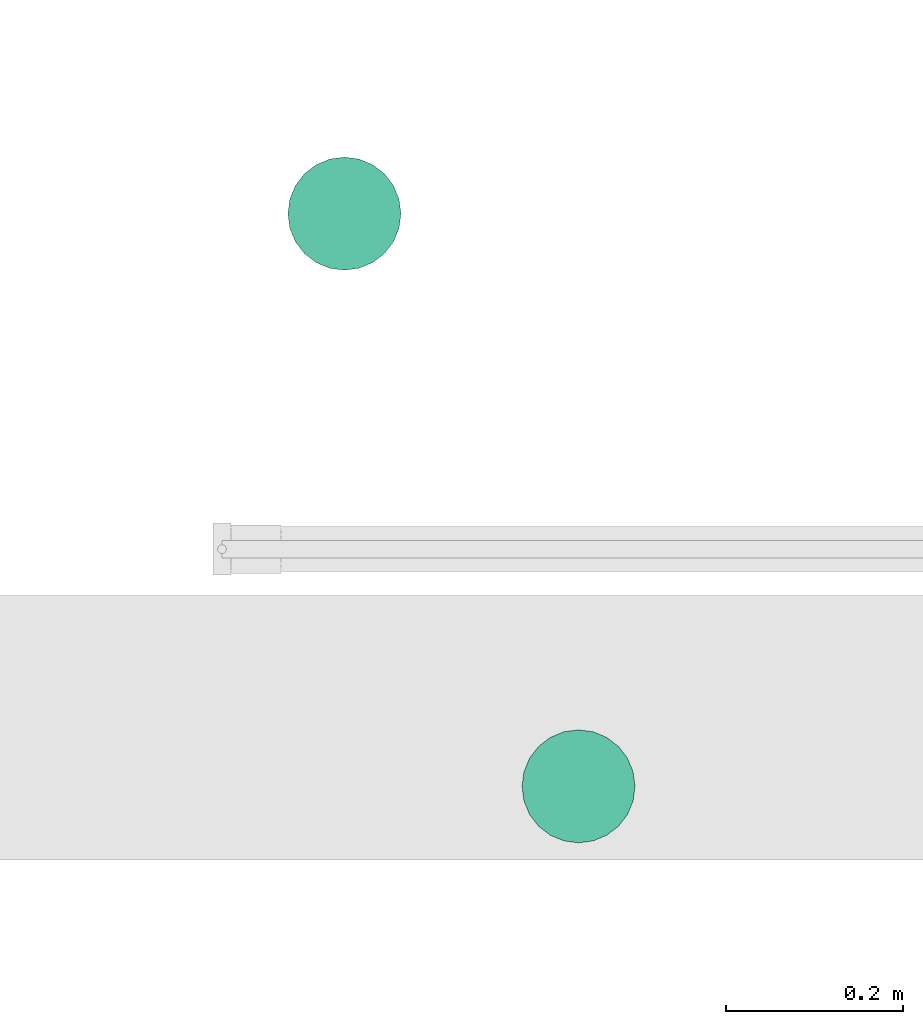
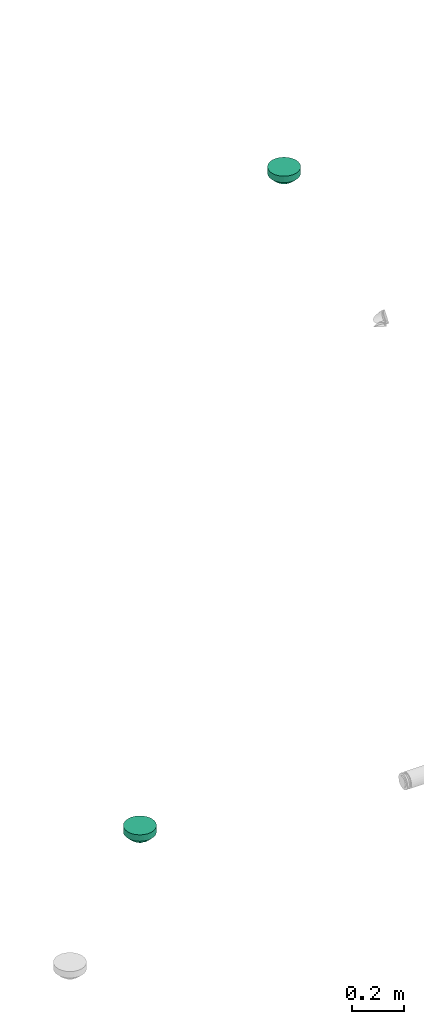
# One storey, part 47 of 153: 2 flow terminals.
"""IFC2X3 building model written with IfcOpenShell, lengths in metres."""

from ifc_helpers import new_model, entity, si_unit, converted_unit, derived_unit, direction, frame, origin, place, context, subcontext, project, spatial, faceted_brep, source, transform, mapped, type_object, type_shapes, element, save


model = new_model("IFC2X3")

# Units and contexts
model_context = context("Model", 3, precision=1e-05, world=origin(), true_north=direction((6.12303176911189e-17, 1.0)))
body_context = subcontext(model_context, "Body", "Model", "MODEL_VIEW")
ifc_project = project(units=[si_unit("LENGTHUNIT", "METRE"), si_unit("AREAUNIT", "SQUARE_METRE"), si_unit("VOLUMEUNIT", "CUBIC_METRE"), converted_unit("PLANEANGLEUNIT", "DEGREE", entity("IfcRatioMeasure", 0.0174532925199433), si_unit("PLANEANGLEUNIT", "RADIAN"), dimensions=[0, 0, 0, 0, 0, 0, 0]), si_unit("MASSUNIT", "GRAM", prefix="KILO"), derived_unit("MASSDENSITYUNIT", [(si_unit("MASSUNIT", "GRAM", prefix="KILO"), 1), (si_unit("LENGTHUNIT", "METRE"), -3)]), si_unit("TIMEUNIT", "SECOND"), si_unit("FREQUENCYUNIT", "HERTZ"), si_unit("THERMODYNAMICTEMPERATUREUNIT", "DEGREE_CELSIUS"), derived_unit("THERMALTRANSMITTANCEUNIT", [(si_unit("MASSUNIT", "GRAM", prefix="KILO"), 1), (si_unit("THERMODYNAMICTEMPERATUREUNIT", "KELVIN"), -1), (si_unit("TIMEUNIT", "SECOND"), -3)]), derived_unit("VOLUMETRICFLOWRATEUNIT", [(si_unit("LENGTHUNIT", "METRE"), 3), (si_unit("TIMEUNIT", "SECOND"), -1)]), si_unit("ELECTRICCURRENTUNIT", "AMPERE"), si_unit("ELECTRICVOLTAGEUNIT", "VOLT"), si_unit("POWERUNIT", "WATT"), si_unit("FORCEUNIT", "NEWTON"), si_unit("ILLUMINANCEUNIT", "LUX"), si_unit("LUMINOUSFLUXUNIT", "LUMEN"), si_unit("LUMINOUSINTENSITYUNIT", "CANDELA"), derived_unit("USERDEFINED", [(si_unit("MASSUNIT", "GRAM", prefix="KILO"), -1), (si_unit("LENGTHUNIT", "METRE"), -2), (si_unit("TIMEUNIT", "SECOND"), 3), (si_unit("LUMINOUSFLUXUNIT", "LUMEN"), 1)]), derived_unit("LINEARVELOCITYUNIT", [(si_unit("LENGTHUNIT", "METRE"), 1), (si_unit("TIMEUNIT", "SECOND"), -1)]), si_unit("PRESSUREUNIT", "PASCAL"), derived_unit("USERDEFINED", [(si_unit("LENGTHUNIT", "METRE"), -2), (si_unit("MASSUNIT", "GRAM", prefix="KILO"), 1), (si_unit("TIMEUNIT", "SECOND"), -2)])], contexts=[model_context])

# Site, building, storey
site_placement = place(None, origin())
site = spatial("IfcSite", under=ifc_project, at=site_placement, Name="Default", CompositionType="ELEMENT")
building_placement = place(site_placement, origin())
building = spatial("IfcBuilding", under=site, at=building_placement, CompositionType="ELEMENT")
storey_placement = place(building_placement, frame((0.0, 0.0, -4.62)))
storey = spatial("IfcBuildingStorey", under=building, at=storey_placement, Name="S02", CompositionType="ELEMENT", Elevation=-4.62)

# Flow terminals
light_fixture_type = type_object("IfcLightFixtureType", Name="Détecteur 360°", PredefinedType="NOTDEFINED")
shared_shape = source(origin(), body_context, "Body", "Brep", [
    faceted_brep([(0.0, -0.0397165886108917, 0.0531256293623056), (0.0, -0.034524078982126, 0.0563702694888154), (-0.0175153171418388, -0.0435914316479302, 0.0478512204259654), (-0.0194029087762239, -0.000878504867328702, 0.0644483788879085), (0.0, 0.0, 0.0669999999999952), (0.0, 0.00603476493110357, 0.0659648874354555), (-0.0174057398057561, -0.0159851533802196, 0.0630502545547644), (-0.0366619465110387, -0.0127227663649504, 0.0549213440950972), (-0.026998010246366, -0.0195753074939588, 0.0584711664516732), (-0.0202403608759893, -0.0335607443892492, 0.054639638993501), (-0.0359767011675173, -0.0348394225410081, 0.0444249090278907), (-0.0276843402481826, -0.0401006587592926, 0.0459804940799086), (-0.0133088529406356, -0.0517577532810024, 0.0400582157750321), (-0.0172617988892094, -0.0486391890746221, 0.042533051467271), (-0.0256912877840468, -0.0533485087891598, 0.0299999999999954), (-0.0462941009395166, -0.0369183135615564, 0.0299999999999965), (0.0, -0.0241390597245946, 0.0628595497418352), (-0.0186245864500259, -0.0267295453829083, 0.0589100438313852), (-0.0139070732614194, -0.0374370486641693, 0.0540817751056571), (0.0, 0.0449090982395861, 0.049880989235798), (-0.0172618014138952, 0.0486391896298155, 0.0425330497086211), (0.0, 0.0397165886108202, 0.0531256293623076), (-0.0186245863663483, 0.0267295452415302, 0.0589100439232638), (-0.0202403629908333, 0.0335607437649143, 0.054639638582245), (-0.0353547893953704, 0.0284533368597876, 0.0494330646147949), (0.0, 0.0120695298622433, 0.0649297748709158), (-0.0249385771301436, 0.0204731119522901, 0.0590841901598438), (-0.0191783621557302, 0.0150189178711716, 0.062775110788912), (-0.0465404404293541, -0.0196510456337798, 0.0438984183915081), (-0.052010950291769, -0.0250471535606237, 0.029999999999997), (-0.0453471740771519, -0.0286501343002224, 0.0397747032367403), (-0.0365036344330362, -0.0226255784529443, 0.0516441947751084), (-0.0175153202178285, 0.0435914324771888, 0.0478512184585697), (-0.0359926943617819, 0.0451334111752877, 0.0299999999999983), (-0.0276843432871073, 0.0401006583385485, 0.0459804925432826), (-0.00849704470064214, -0.0572729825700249, 0.0299999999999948), (0.0, -0.0592123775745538, 0.0299999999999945), (0.0, -0.0545512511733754, 0.0364787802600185), (0.0, -0.049890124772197, 0.0429575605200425), (-0.0169940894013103, -0.055333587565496, 0.0299999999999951), (-0.0359767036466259, 0.0348394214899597, 0.0444249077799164), (-0.025691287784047, 0.0533485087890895, 0.0299999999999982), (-0.0308419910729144, 0.0492409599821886, 0.0299999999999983), (-0.0130265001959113, 0.0514867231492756, 0.040526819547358), (-0.0169940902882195, 0.0553335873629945, 0.029999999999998), (0.0, 0.0498901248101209, 0.0429575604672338), (-0.0353547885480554, -0.0284533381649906, 0.0494330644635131), (0.0, 0.0181042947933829, 0.0638946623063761), (-0.0473669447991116, -0.00128092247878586, 0.0474310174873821), (-0.0485435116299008, -0.00908961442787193, 0.0452357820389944), (-0.0366597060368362, -0.0032867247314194, 0.0563153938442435), (-0.0226425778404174, -0.0107553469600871, 0.0624973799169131), (0.0, -0.00603476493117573, 0.0659648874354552), (0.0, 0.0293315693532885, 0.0596149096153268), (-0.0139070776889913, 0.0374370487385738, 0.0540817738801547), (-0.0449600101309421, 0.018422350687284, 0.0461366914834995), (-0.0453471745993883, 0.0286501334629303, 0.0397747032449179), (-0.0476906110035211, 0.00670602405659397, 0.0466053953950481), (-0.0577277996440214, 0.0131759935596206, 0.0299999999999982), (-0.0577277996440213, 0.00658799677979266, 0.029999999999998), (-0.0577277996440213, 0.0, 0.0299999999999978), (0.0, -0.0449090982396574, 0.0498809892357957), (-0.0308419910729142, -0.049240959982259, 0.0299999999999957), (-0.0359926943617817, -0.0451334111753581, 0.029999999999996), (0.0, 0.0345240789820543, 0.0563702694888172), (-0.0411433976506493, 0.0410258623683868, 0.0299999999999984), (-0.0462941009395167, 0.0369183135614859, 0.0299999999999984), (-0.0491525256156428, -0.03098273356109, 0.0299999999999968), (-0.0577277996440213, -0.0131759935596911, 0.0299999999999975), (0.0, -0.018104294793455, 0.0638946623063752), (-0.0377433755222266, 0.0044838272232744, 0.0554913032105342), (-0.0577277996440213, -0.00658799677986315, 0.0299999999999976), (-0.0385149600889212, 0.0124844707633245, 0.0536578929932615), (-0.0491525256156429, 0.0309827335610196, 0.0299999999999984), (-0.0548693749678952, 0.0191115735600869, 0.0299999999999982), (0.0, 0.0241390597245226, 0.0628595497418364), (-0.014625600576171, 0.0100436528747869, 0.0649170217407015), (-0.0271766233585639, 0.00920278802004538, 0.0609170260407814), (0.0, -0.0120695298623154, 0.0649297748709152), (-0.0520109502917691, 0.0250471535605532, 0.0299999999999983), (-0.0411433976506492, -0.0410258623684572, 0.0299999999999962), (-0.0548693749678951, -0.0191115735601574, 0.0299999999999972), (0.0, -0.0293315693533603, 0.0596149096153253), (0.0, 0.0545512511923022, 0.0364787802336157), (0.0, 0.0592123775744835, 0.0299999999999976), (-0.00849704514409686, 0.057272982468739, 0.0299999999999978), (-0.0127455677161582, 0.0563032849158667, 0.0299999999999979), (-0.0213426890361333, 0.054341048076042, 0.0299999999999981), (0.0175153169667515, 0.0435914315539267, 0.0478512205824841), (0.0194029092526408, 0.000878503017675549, 0.0644483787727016), (0.017405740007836, 0.0159851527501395, 0.0630502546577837), (0.0366619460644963, 0.012722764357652, 0.0549213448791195), (0.0269980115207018, 0.0195753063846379, 0.0584711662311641), (0.0202403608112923, 0.0335607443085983, 0.0546396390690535), (0.0359767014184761, 0.0348394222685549, 0.0444249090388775), (0.0276843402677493, 0.0401006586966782, 0.0459804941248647), (0.0133088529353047, 0.0517577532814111, 0.0400582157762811), (0.0172617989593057, 0.0486391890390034, 0.0425330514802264), (0.0256912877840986, 0.0533485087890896, 0.0299999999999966), (0.0462941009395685, 0.0369183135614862, 0.0299999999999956), (0.00849704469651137, 0.0572729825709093, 0.0299999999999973), (0.0169940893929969, 0.0553335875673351, 0.029999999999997), (0.0172617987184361, -0.0486391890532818, 0.0425330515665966), (0.025691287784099, -0.0533485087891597, 0.0299999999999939), (0.0308419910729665, -0.0492409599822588, 0.0299999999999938), (0.0175153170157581, -0.0435914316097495, 0.0478512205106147), (0.0186245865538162, -0.0267295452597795, 0.0589100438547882), (0.0202403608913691, -0.03356074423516, 0.0546396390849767), (0.0353547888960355, -0.0284533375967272, 0.0494330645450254), (0.0249385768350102, -0.0204731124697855, 0.0590841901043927), (0.0191783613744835, -0.0150189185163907, 0.062775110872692), (0.0465404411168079, 0.0196510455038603, 0.0438984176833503), (0.0577277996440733, 0.0131759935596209, 0.0299999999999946), (0.0548693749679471, 0.0191115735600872, 0.0299999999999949), (0.0520109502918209, 0.0250471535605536, 0.0299999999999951), (0.0365036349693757, 0.0226255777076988, 0.0516441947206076), (0.0186245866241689, 0.0267295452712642, 0.0589100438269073), (0.0359926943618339, -0.0451334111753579, 0.0299999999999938), (0.0276843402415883, -0.0401006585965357, 0.0459804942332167), (0.0139070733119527, 0.0374370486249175, 0.0540817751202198), (0.0359767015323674, -0.0348394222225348, 0.044424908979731), (0.0226425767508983, 0.0107553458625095, 0.0624973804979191), (0.0169940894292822, -0.0553335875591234, 0.0299999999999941), (0.0130264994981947, -0.0514867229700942, 0.0405268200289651), (0.0453471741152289, 0.0286501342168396, 0.039774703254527), (0.0353547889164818, 0.0284533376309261, 0.0494330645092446), (0.0473669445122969, 0.00128092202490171, 0.0474310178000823), (0.0485435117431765, 0.00908961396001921, 0.0452357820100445), (0.0366597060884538, 0.00328672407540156, 0.0563153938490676), (0.0139070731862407, -0.0374370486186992, 0.0540817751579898), (0.0449600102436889, -0.018422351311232, 0.0461366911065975), (0.0453471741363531, -0.0286501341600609, 0.039774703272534), (0.0476906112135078, -0.00670602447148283, 0.046605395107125), (0.0577277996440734, -0.0131759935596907, 0.0299999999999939), (0.0577277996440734, -0.00658799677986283, 0.0299999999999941), (0.0577277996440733, 0.0, 0.0299999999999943), (0.0308419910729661, 0.0492409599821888, 0.0299999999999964), (0.0359926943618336, 0.0451334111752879, 0.0299999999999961), (0.0411433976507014, -0.041025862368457, 0.0299999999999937), (0.0462941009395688, -0.0369183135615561, 0.0299999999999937), (0.0491525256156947, 0.0309827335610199, 0.0299999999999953), (0.037743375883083, -0.00448382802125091, 0.0554913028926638), (0.0577277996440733, 0.00658799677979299, 0.0299999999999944), (0.0385149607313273, -0.0124844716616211, 0.0536578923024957), (0.049152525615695, -0.0309827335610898, 0.0299999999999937), (0.0548693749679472, -0.0191115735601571, 0.0299999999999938), (0.0146256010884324, -0.0100436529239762, 0.0649170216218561), (0.0271766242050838, -0.00920278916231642, 0.0609170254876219), (0.0520109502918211, -0.0250471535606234, 0.0299999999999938), (0.041143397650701, 0.0410258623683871, 0.0299999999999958), (0.00849704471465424, -0.0572729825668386, 0.0299999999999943), (0.0127455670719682, -0.056303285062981, 0.0299999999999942), (0.0213426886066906, -0.0543410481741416, 0.029999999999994), (0.0, 0.0, 0.0299999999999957)], [[[0, 1, 2]], [[3, 4, 5]], [[6, 7, 8]], [[9, 10, 11]], [[12, 13, 14]], [[10, 15, 11]], [[9, 16, 17]], [[18, 9, 11]], [[19, 20, 21]], [[22, 23, 24]], [[25, 26, 27]], [[28, 29, 30]], [[8, 31, 17]], [[32, 33, 34]], [[35, 36, 37, 38, 39]], [[23, 40, 24]], [[20, 41, 42]], [[19, 43, 20]], [[44, 43, 45]], [[20, 32, 21]], [[30, 10, 46]], [[22, 26, 47]], [[48, 49, 50]], [[3, 51, 52]], [[53, 54, 23]], [[55, 24, 56]], [[57, 58, 59, 60]], [[13, 61, 0]], [[13, 0, 2]], [[2, 62, 13]], [[18, 2, 1]], [[2, 11, 63]], [[32, 64, 21]], [[32, 42, 33]], [[34, 33, 65, 66]], [[20, 42, 32]], [[54, 32, 34]], [[28, 30, 31]], [[10, 67, 15]], [[49, 68, 28]], [[8, 17, 69]], [[7, 6, 51]], [[28, 31, 7]], [[57, 48, 70]], [[58, 57, 55]], [[48, 71, 49]], [[70, 48, 50]], [[3, 50, 51]], [[55, 26, 24]], [[72, 57, 70]], [[26, 55, 72]], [[56, 40, 73]], [[56, 74, 55]], [[47, 75, 22]], [[52, 4, 3]], [[7, 50, 49]], [[5, 76, 3]], [[70, 3, 77]], [[51, 78, 52]], [[26, 25, 47]], [[76, 25, 27]], [[23, 22, 75]], [[26, 22, 24]], [[53, 64, 54]], [[23, 34, 40]], [[66, 40, 34]], [[40, 66, 73]], [[56, 73, 79, 74]], [[72, 27, 26]], [[40, 56, 24]], [[23, 75, 53]], [[69, 17, 16]], [[78, 6, 69]], [[46, 10, 9]], [[46, 9, 17]], [[50, 7, 51]], [[30, 29, 67]], [[80, 63, 11, 15]], [[28, 68, 81, 29]], [[10, 30, 67]], [[30, 46, 31]], [[82, 18, 1]], [[82, 16, 9]], [[28, 7, 49]], [[12, 39, 38]], [[61, 13, 12]], [[83, 84, 85, 86, 44, 45]], [[43, 41, 20]], [[44, 87, 41, 43]], [[32, 54, 64]], [[23, 54, 34]], [[9, 18, 82]], [[2, 18, 11]], [[39, 12, 14]], [[38, 61, 12]], [[62, 2, 63]], [[62, 14, 13]], [[17, 31, 46]], [[7, 31, 8]], [[48, 60, 71]], [[71, 68, 49]], [[60, 48, 57]], [[3, 70, 50]], [[72, 70, 77]], [[72, 77, 27]], [[55, 57, 72]], [[74, 58, 55]], [[76, 27, 77]], [[3, 76, 77]], [[25, 76, 5]], [[69, 6, 8]], [[78, 51, 6]], [[45, 43, 19]], [[21, 64, 88]], [[89, 4, 52]], [[90, 91, 92]], [[93, 94, 95]], [[96, 97, 98]], [[94, 99, 95]], [[100, 84, 83, 45, 101]], [[102, 103, 104]], [[102, 105, 0]], [[106, 107, 108]], [[78, 109, 110]], [[111, 112, 113, 114]], [[92, 115, 116]], [[105, 117, 118]], [[119, 93, 95]], [[107, 120, 108]], [[89, 121, 5]], [[122, 123, 38]], [[61, 123, 102]], [[93, 75, 116]], [[124, 94, 125]], [[106, 109, 69]], [[126, 127, 128]], [[61, 102, 0]], [[82, 129, 107]], [[130, 108, 131]], [[132, 133, 134, 135]], [[97, 19, 21]], [[97, 21, 88]], [[88, 136, 97]], [[119, 88, 64]], [[88, 95, 137]], [[105, 1, 0]], [[105, 104, 117]], [[118, 117, 138, 139]], [[102, 104, 105]], [[129, 105, 118]], [[111, 124, 115]], [[94, 140, 99]], [[127, 112, 111]], [[92, 116, 47]], [[91, 90, 121]], [[111, 115, 91]], [[132, 126, 141]], [[133, 132, 130]], [[126, 142, 127]], [[141, 126, 128]], [[89, 128, 121]], [[130, 109, 108]], [[143, 132, 141]], [[109, 130, 143]], [[131, 120, 144]], [[131, 145, 130]], [[69, 16, 106]], [[5, 4, 89]], [[91, 128, 127]], [[52, 146, 89]], [[141, 89, 147]], [[121, 25, 5]], [[109, 78, 69]], [[146, 78, 110]], [[107, 106, 16]], [[109, 106, 108]], [[82, 1, 129]], [[107, 118, 120]], [[139, 120, 118]], [[120, 139, 144]], [[131, 144, 148, 145]], [[143, 110, 109]], [[120, 131, 108]], [[107, 16, 82]], [[47, 116, 75]], [[25, 90, 47]], [[125, 94, 93]], [[125, 93, 116]], [[128, 91, 121]], [[124, 114, 140]], [[149, 137, 95, 99]], [[111, 114, 124]], [[94, 124, 140]], [[124, 125, 115]], [[53, 119, 64]], [[53, 75, 93]], [[111, 91, 127]], [[96, 101, 45]], [[19, 97, 96]], [[37, 36, 150, 151, 122, 38]], [[123, 103, 102]], [[122, 152, 103, 123]], [[105, 129, 1]], [[107, 129, 118]], [[93, 119, 53]], [[88, 119, 95]], [[101, 96, 98]], [[45, 19, 96]], [[136, 88, 137]], [[136, 98, 97]], [[116, 115, 125]], [[91, 115, 92]], [[126, 135, 142]], [[142, 112, 127]], [[135, 126, 132]], [[89, 141, 128]], [[143, 141, 147]], [[143, 147, 110]], [[130, 132, 143]], [[145, 133, 130]], [[146, 110, 147]], [[89, 146, 147]], [[78, 146, 52]], [[47, 90, 92]], [[25, 121, 90]], [[38, 123, 61]], [[153, 66, 65]], [[153, 65, 33]], [[153, 33, 42]], [[153, 42, 41]], [[153, 41, 87]], [[153, 73, 66]], [[153, 79, 73]], [[153, 74, 79]], [[153, 58, 74]], [[153, 87, 44]], [[153, 44, 86]], [[153, 86, 85]], [[153, 85, 84]], [[153, 84, 100]], [[153, 59, 58]], [[153, 60, 59]], [[153, 71, 60]], [[153, 68, 71]], [[153, 81, 68]], [[153, 29, 81]], [[153, 67, 29]], [[153, 15, 67]], [[153, 80, 15]], [[153, 63, 80]], [[153, 62, 63]], [[153, 14, 62]], [[153, 39, 14]], [[153, 35, 39]], [[153, 36, 35]], [[153, 100, 101]], [[153, 101, 98]], [[153, 98, 136]], [[153, 136, 137]], [[153, 137, 149]], [[153, 149, 99]], [[153, 99, 140]], [[153, 140, 114]], [[153, 114, 113]], [[153, 113, 112]], [[153, 112, 142]], [[153, 150, 36]], [[153, 151, 150]], [[153, 122, 151]], [[153, 152, 122]], [[153, 103, 152]], [[153, 104, 103]], [[153, 117, 104]], [[153, 138, 117]], [[153, 139, 138]], [[153, 144, 139]], [[153, 148, 144]], [[153, 145, 148]], [[153, 133, 145]], [[153, 142, 135]], [[153, 135, 134]], [[153, 134, 133]]]),
    faceted_brep([(0.0165644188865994, -0.0618192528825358, 0.029999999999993), (0.0320000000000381, -0.0554256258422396, 0.0299999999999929), (0.0452548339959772, -0.0452548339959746, 0.0299999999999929), (0.0554256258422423, -0.0320000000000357, 0.029999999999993), (0.0618192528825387, -0.016564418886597, 0.0299999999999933), (0.0640000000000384, 0.0, 0.0299999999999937), (0.0618192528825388, 0.016564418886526, 0.0299999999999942), (0.0554256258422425, 0.0319999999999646, 0.0299999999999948), (0.0452548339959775, 0.0452548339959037, 0.0299999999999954), (0.0320000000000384, 0.0554256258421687, 0.0299999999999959), (0.0165644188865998, 0.061819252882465, 0.0299999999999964), (0.0, 0.0639999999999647, 0.0299999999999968), (-0.0165644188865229, 0.061819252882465, 0.0299999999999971), (-0.0319999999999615, 0.0554256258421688, 0.0299999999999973), (-0.0452548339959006, 0.0452548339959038, 0.0299999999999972), (-0.0554256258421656, 0.0319999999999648, 0.0299999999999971), (-0.0618192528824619, 0.0165644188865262, 0.0299999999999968), (-0.0639999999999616, 0.0, 0.0299999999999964), (-0.061819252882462, -0.0165644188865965, 0.0299999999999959), (-0.0554256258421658, -0.0320000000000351, 0.0299999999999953), (-0.0452548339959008, -0.0452548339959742, 0.0299999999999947), (-0.0319999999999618, -0.0554256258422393, 0.0299999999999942), (-0.0165644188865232, -0.0618192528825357, 0.0299999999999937), (0.0, -0.0640000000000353, 0.0299999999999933), (0.0165644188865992, 0.0618192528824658, 0.0), (0.0320000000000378, 0.0554256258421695, 0.0), (0.0452548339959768, 0.0452548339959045, 0.0), (0.0554256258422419, 0.0319999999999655, 0.0), (0.0618192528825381, 0.0165644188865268, 0.0), (0.0640000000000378, 0.0, 0.0), (0.061819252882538, -0.0165644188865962, 0.0), (0.0554256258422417, -0.0320000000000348, 0.0), (0.0452548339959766, -0.0452548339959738, 0.0), (0.0320000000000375, -0.0554256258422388, 0.0), (0.0165644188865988, -0.061819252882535, 0.0), (0.0, -0.0640000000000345, 0.0), (-0.0165644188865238, -0.0618192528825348, 0.0), (-0.0319999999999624, -0.0554256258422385, 0.0), (-0.0452548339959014, -0.0452548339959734, 0.0), (-0.0554256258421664, -0.0320000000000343, 0.0), (-0.0618192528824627, -0.0165644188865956, 0.0), (-0.0639999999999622, 0.0, 0.0), (-0.0618192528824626, 0.016564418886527, 0.0), (-0.0554256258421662, 0.0319999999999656, 0.0), (-0.0452548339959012, 0.0452548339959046, 0.0), (-0.0319999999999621, 0.0554256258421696, 0.0), (-0.0165644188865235, 0.0618192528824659, 0.0), (0.0, 0.0639999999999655, 0.0)], [[[0, 1, 2, 3, 4, 5, 6, 7, 8, 9, 10, 11, 12, 13, 14, 15, 16, 17, 18, 19, 20, 21, 22, 23]], [[24, 25, 26, 27, 28, 29, 30, 31, 32, 33, 34, 35, 36, 37, 38, 39, 40, 41, 42, 43, 44, 45, 46, 47]], [[40, 18, 17, 41]], [[39, 19, 18, 40]], [[21, 20, 38, 37]], [[39, 38, 20, 19]], [[22, 21, 37, 36]], [[23, 22, 36, 35]], [[34, 0, 23, 35]], [[33, 1, 0, 34]], [[3, 2, 32, 31]], [[33, 32, 2, 1]], [[4, 3, 31, 30]], [[5, 4, 30, 29]], [[28, 6, 5, 29]], [[27, 7, 6, 28]], [[9, 8, 26, 25]], [[27, 26, 8, 7]], [[10, 9, 25, 24]], [[11, 10, 24, 47]], [[46, 12, 11, 47]], [[45, 13, 12, 46]], [[42, 41, 17, 16]], [[44, 14, 13, 45]], [[43, 15, 14, 44]], [[43, 42, 16, 15]]]),
])
type_shapes(light_fixture_type, [shared_shape])
for number, where, z_axis, x_axis in (
    (1, (39.1884346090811, -188.828177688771, 3.37), (0.0, 0.0, -1.0), (-1.0, 0.0, 0.0)),
    (2, (39.4535521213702, -189.476781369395, 6.76), (0.0, 0.0, -1.0), (-1.0, 0.0, 0.0)),
):
    element("IfcFlowTerminal", number, at=place(building_placement, frame(where, z_axis=z_axis, x_axis=x_axis)), inside=storey, type_object=light_fixture_type, Name="INT - Détecteur Luminosite:Détecteur 360°", ObjectType="INT - Détecteur Luminosite:Détecteur 360°", context=body_context, shape_type="MappedRepresentation", body=[
        mapped(shared_shape, transform((0.0, 0.0, 0.0), scale=1.0)),
    ])

save(model, "model.ifc")
